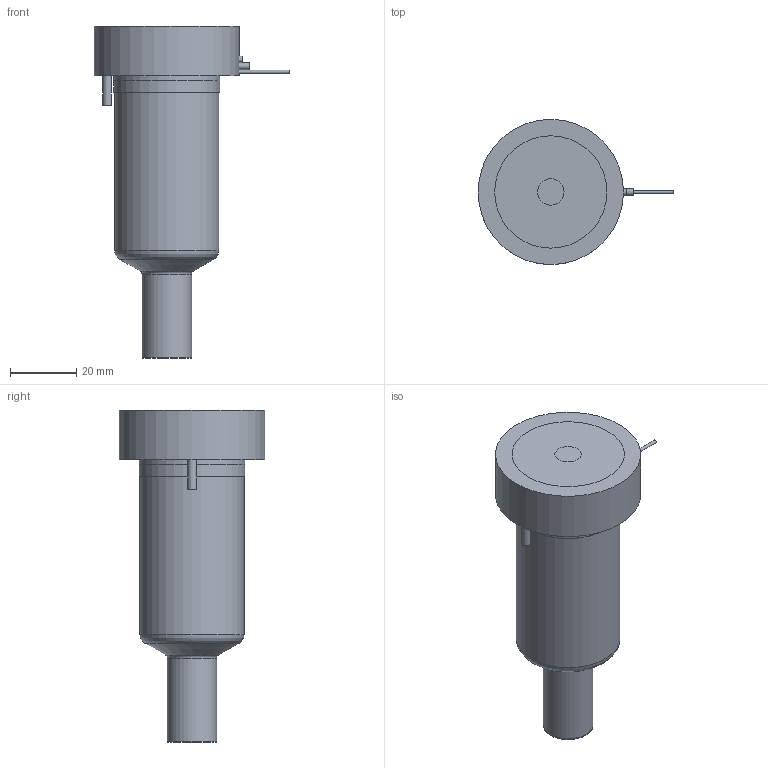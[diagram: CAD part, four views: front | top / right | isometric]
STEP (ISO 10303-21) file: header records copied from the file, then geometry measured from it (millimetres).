
FILE_DESCRIPTION(/* description */ (''),/* implementation_level */ '2;1');
FILE_NAME(/* name */ 'MXYCN19065P7U_250C_a',/* time_stamp */ '2016-02-29T16:07:54+13:00',/* author */ (''),/* organization */ (''),/* preprocessor_version */ 'ST-DEVELOPER v9',/* originating_system */ 'UGS - NX 4.0',/* authorisation */ '');
FILE_SCHEMA (('CONFIG_CONTROL_DESIGN'));
Length unit declared in the file: millimetre
Products named in the file (1): mattB1369yti
Bounding box: 59.25 x 44 x 100.5 mm (x, y, z)
Volume: 121119.5 mm3; surface area: 23024.5 mm2
Topology: 2 solids, 2 shells, 68 faces, 144 edges, 94 vertices
Faces by surface type: plane 29, cylinder 25, torus 7, cone 5, bspline 1, sphere 1
Full cylindrical faces by diameter (mm): 1 x2, 1.8 x1, 2 x2, 2.5 x1, 7 x1, 8 x1, 14.61 x1, 14.995 x2, 18.3 x1, 25.4 x1, 31.5 x1, 32 x2, 44 x1
Entity records: 2005 total; most frequent: CARTESIAN_POINT 597, DIRECTION 290, ORIENTED_EDGE 212, AXIS2_PLACEMENT_3D 131, EDGE_LOOP 112, EDGE_CURVE 106, VERTEX_POINT 84, ADVANCED_FACE 68
